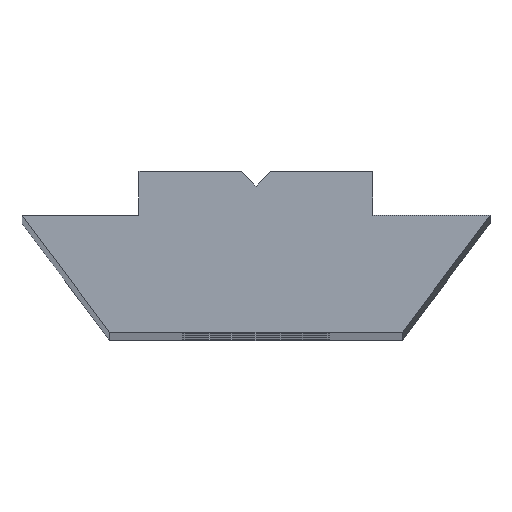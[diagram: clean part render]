
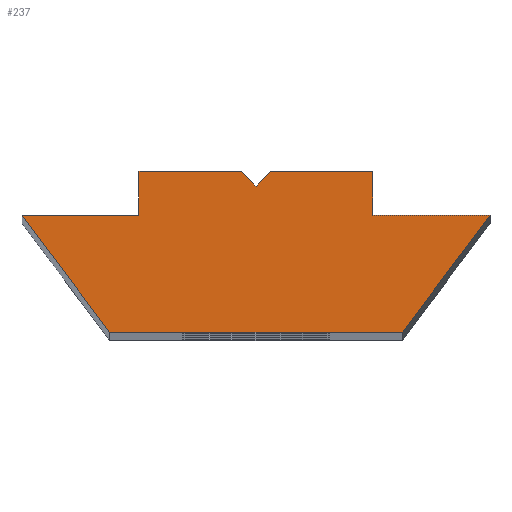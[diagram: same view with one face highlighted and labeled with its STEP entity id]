
A CAD part, top view. The second image highlights one B-rep face of the part: STEP entity #237.
In plain terms, the highlighted planar face has unit normal (0, 0, 1).
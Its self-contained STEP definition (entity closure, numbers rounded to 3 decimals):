
#45 = EDGE_CURVE ( 'NONE', #432, #463, #349, .T. ) ;
#57 = LINE ( 'NONE', #661, #450 ) ;
#76 = CARTESIAN_POINT ( 'NONE',  ( -3.832, 1.5, 160. ) ) ;
#91 = ORIENTED_EDGE ( 'NONE', *, *, #45, .T. ) ;
#102 = LINE ( 'NONE', #927, #944 ) ;
#105 = EDGE_CURVE ( 'NONE', #472, #282, #57, .T. ) ;
#108 = LINE ( 'NONE', #395, #734 ) ;
#151 = DIRECTION ( 'NONE',  ( 0.6, -0.8, 0. ) ) ;
#158 = ORIENTED_EDGE ( 'NONE', *, *, #759, .T. ) ;
#160 = LINE ( 'NONE', #724, #763 ) ;
#166 = CARTESIAN_POINT ( 'NONE',  ( -12.832, 0., 160. ) ) ;
#175 = VERTEX_POINT ( 'NONE', #555 ) ;
#182 = AXIS2_PLACEMENT_3D ( 'NONE', #822, #825, #325 ) ;
#188 = CARTESIAN_POINT ( 'NONE',  ( -8.832, 1.5, 160. ) ) ;
#194 = CARTESIAN_POINT ( 'NONE',  ( -4.832, 1.001, 160. ) ) ;
#212 = LINE ( 'NONE', #743, #1035 ) ;
#222 = EDGE_CURVE ( 'NONE', #857, #766, #890, .T. ) ;
#236 = ORIENTED_EDGE ( 'NONE', *, *, #710, .T. ) ;
#237 = ADVANCED_FACE ( 'NONE', ( #866 ), #983, .T. ) ;
#244 = EDGE_CURVE ( 'NONE', #398, #950, #258, .T. ) ;
#247 = CARTESIAN_POINT ( 'NONE',  ( -8.832, 0., 160. ) ) ;
#254 = DIRECTION ( 'NONE',  ( -1., 0., 0. ) ) ;
#258 = LINE ( 'NONE', #247, #1059 ) ;
#282 = VERTEX_POINT ( 'NONE', #908 ) ;
#287 = DIRECTION ( 'NONE',  ( -1., 0., 0. ) ) ;
#295 = EDGE_CURVE ( 'NONE', #474, #594, #212, .T. ) ;
#302 = ORIENTED_EDGE ( 'NONE', *, *, #1054, .T. ) ;
#325 = DIRECTION ( 'NONE',  ( 1., 0., 0. ) ) ;
#335 = CARTESIAN_POINT ( 'NONE',  ( -0.832, 1.5, 160. ) ) ;
#345 = VECTOR ( 'NONE', #151, 1000. ) ;
#349 = LINE ( 'NONE', #499, #958 ) ;
#352 = CARTESIAN_POINT ( 'NONE',  ( 0.168, -4., 160. ) ) ;
#372 = ORIENTED_EDGE ( 'NONE', *, *, #735, .T. ) ;
#395 = CARTESIAN_POINT ( 'NONE',  ( 0.168, -4., 160. ) ) ;
#398 = VERTEX_POINT ( 'NONE', #188 ) ;
#432 = VERTEX_POINT ( 'NONE', #764 ) ;
#444 = EDGE_CURVE ( 'NONE', #766, #472, #102, .T. ) ;
#450 = VECTOR ( 'NONE', #483, 1000. ) ;
#454 = LINE ( 'NONE', #783, #915 ) ;
#457 = CARTESIAN_POINT ( 'NONE',  ( -9.832, -4., 160. ) ) ;
#463 = VERTEX_POINT ( 'NONE', #352 ) ;
#472 = VERTEX_POINT ( 'NONE', #194 ) ;
#474 = VERTEX_POINT ( 'NONE', #937 ) ;
#483 = DIRECTION ( 'NONE',  ( -0.707, 0.707, 0. ) ) ;
#499 = CARTESIAN_POINT ( 'NONE',  ( 0.168, -4., 160. ) ) ;
#532 = LINE ( 'NONE', #166, #705 ) ;
#533 = CARTESIAN_POINT ( 'NONE',  ( -0.832, 0., 160. ) ) ;
#555 = CARTESIAN_POINT ( 'NONE',  ( -12.832, 0., 160. ) ) ;
#558 = LINE ( 'NONE', #457, #345 ) ;
#563 = DIRECTION ( 'NONE',  ( -1., 0., 0. ) ) ;
#570 = DIRECTION ( 'NONE',  ( 0., -1., 0. ) ) ;
#594 = VERTEX_POINT ( 'NONE', #533 ) ;
#599 = DIRECTION ( 'NONE',  ( -0.707, -0.707, 0. ) ) ;
#624 = ORIENTED_EDGE ( 'NONE', *, *, #244, .T. ) ;
#649 = DIRECTION ( 'NONE',  ( -1., 0., 0. ) ) ;
#658 = ORIENTED_EDGE ( 'NONE', *, *, #794, .T. ) ;
#661 = CARTESIAN_POINT ( 'NONE',  ( -5.832, 2.001, 160. ) ) ;
#668 = VECTOR ( 'NONE', #649, 1000. ) ;
#671 = ORIENTED_EDGE ( 'NONE', *, *, #444, .T. ) ;
#700 = ORIENTED_EDGE ( 'NONE', *, *, #295, .T. ) ;
#705 = VECTOR ( 'NONE', #563, 1000. ) ;
#710 = EDGE_CURVE ( 'NONE', #175, #432, #558, .T. ) ;
#724 = CARTESIAN_POINT ( 'NONE',  ( -0.832, 1.5, 160. ) ) ;
#729 = DIRECTION ( 'NONE',  ( 0., 1., 0. ) ) ;
#734 = VECTOR ( 'NONE', #977, 1000. ) ;
#735 = EDGE_CURVE ( 'NONE', #594, #857, #160, .T. ) ;
#743 = CARTESIAN_POINT ( 'NONE',  ( -0.832, 0., 160. ) ) ;
#759 = EDGE_CURVE ( 'NONE', #463, #474, #108, .T. ) ;
#763 = VECTOR ( 'NONE', #729, 1000. ) ;
#764 = CARTESIAN_POINT ( 'NONE',  ( -9.832, -4., 160. ) ) ;
#766 = VERTEX_POINT ( 'NONE', #1058 ) ;
#779 = ORIENTED_EDGE ( 'NONE', *, *, #105, .T. ) ;
#783 = CARTESIAN_POINT ( 'NONE',  ( -5.832, 1.5, 160. ) ) ;
#794 = EDGE_CURVE ( 'NONE', #950, #175, #532, .T. ) ;
#819 = ORIENTED_EDGE ( 'NONE', *, *, #222, .T. ) ;
#822 = CARTESIAN_POINT ( 'NONE',  ( 0., 0., 160. ) ) ;
#825 = DIRECTION ( 'NONE',  ( 0., 0., 1. ) ) ;
#857 = VERTEX_POINT ( 'NONE', #335 ) ;
#866 = FACE_OUTER_BOUND ( 'NONE', #979, .T. ) ;
#890 = LINE ( 'NONE', #76, #668 ) ;
#908 = CARTESIAN_POINT ( 'NONE',  ( -5.331, 1.5, 160. ) ) ;
#915 = VECTOR ( 'NONE', #287, 1000. ) ;
#927 = CARTESIAN_POINT ( 'NONE',  ( -4.832, 1.001, 160. ) ) ;
#937 = CARTESIAN_POINT ( 'NONE',  ( 3.168, 0., 160. ) ) ;
#944 = VECTOR ( 'NONE', #599, 1000. ) ;
#950 = VERTEX_POINT ( 'NONE', #1003 ) ;
#958 = VECTOR ( 'NONE', #1010, 1000. ) ;
#977 = DIRECTION ( 'NONE',  ( 0.6, 0.8, 0. ) ) ;
#979 = EDGE_LOOP ( 'NONE', ( #624, #658, #236, #91, #158, #700, #372, #819, #671, #779, #302 ) ) ;
#983 = PLANE ( 'NONE',  #182 ) ;
#1003 = CARTESIAN_POINT ( 'NONE',  ( -8.832, 0., 160. ) ) ;
#1010 = DIRECTION ( 'NONE',  ( 1., 0., 0. ) ) ;
#1035 = VECTOR ( 'NONE', #254, 1000. ) ;
#1054 = EDGE_CURVE ( 'NONE', #282, #398, #454, .T. ) ;
#1058 = CARTESIAN_POINT ( 'NONE',  ( -4.333, 1.5, 160. ) ) ;
#1059 = VECTOR ( 'NONE', #570, 1000. ) ;
